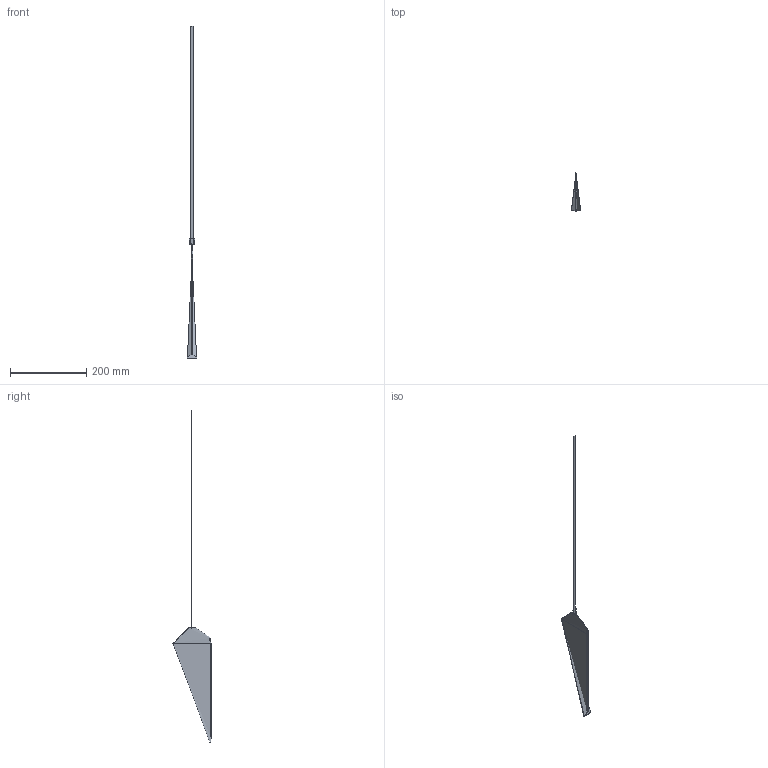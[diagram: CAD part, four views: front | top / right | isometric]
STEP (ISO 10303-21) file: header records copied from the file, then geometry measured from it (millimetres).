
FILE_DESCRIPTION(/* description */ (''),/* implementation_level */ '2;1');
FILE_NAME(/* name */ 'Gap pendant tall',/* time_stamp */ '2020-03-18T12:39:45+01:00',/* author */ (''),/* organization */ (''),/* preprocessor_version */ 'ST-DEVELOPER v15',/* originating_system */ '',/* authorisation */ '');
FILE_SCHEMA (('AUTOMOTIVE_DESIGN'));
Length unit declared in the file: millimetre
Products named in the file (1): Document
Bounding box: 24 x 99.96 x 872.66 mm (x, y, z)
Surface area: 198248.1 mm2 (no closed solid volume)
Topology: 0 solids, 20 shells, 23 faces, 145 edges, 158 vertices
Faces by surface type: bspline 23
Entity records: 2877 total; most frequent: CARTESIAN_POINT 1522, B_SPLINE_CURVE_WITH_KNOTS 146, ORIENTED_EDGE 102, PCURVE 102, DEFINITIONAL_REPRESENTATION 102, SURFACE_CURVE 96, EDGE_CURVE 96, VERTEX_POINT 90
